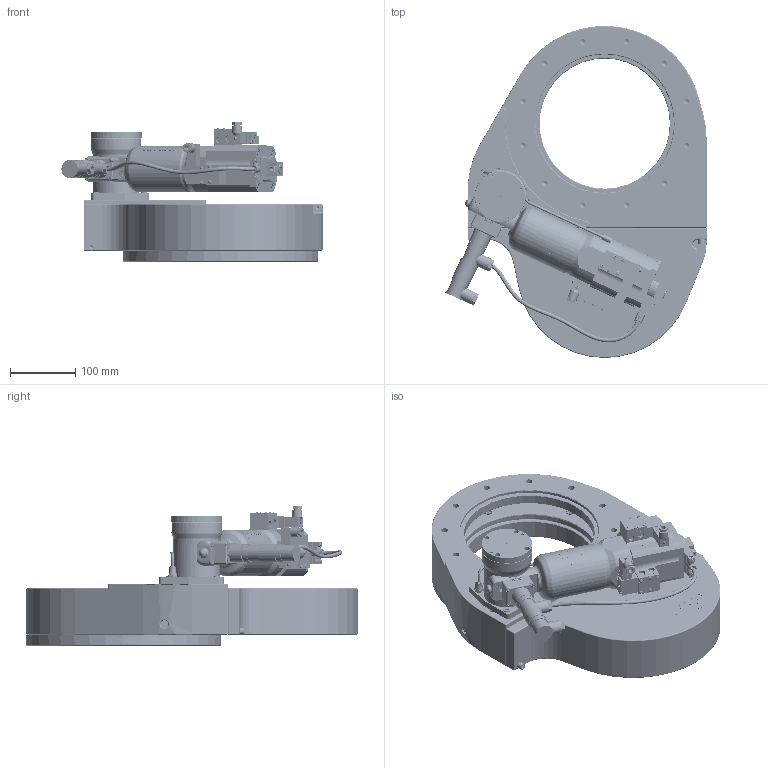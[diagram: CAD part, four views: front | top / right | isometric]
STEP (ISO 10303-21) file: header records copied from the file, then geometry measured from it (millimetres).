
FILE_DESCRIPTION(/* description */ (''),/* implementation_level */ '2;1');
FILE_NAME(/* name */ '1088095690_203',/* time_stamp */ '2009-03-30T12:59:30+02:00',/* author */ (''),/* organization */ (''),/* preprocessor_version */ 'ST-DEVELOPER v11',/* originating_system */ 'UGS - NX 5.0',/* authorisation */ '');
FILE_SCHEMA (('CONFIG_CONTROL_DESIGN'));
Length unit declared in the file: millimetre
Products named in the file (78): N-8406-013_3.2; N-8406-013_2.1; 73662-01.1; 202839_1.2; N-6121-039.1; N-6099-417.1; 82555-01; N-8210-239; 82610-01; N-8406-007; N-8406-551; N-6030-011; 69672-01; N-8406-006_1; 75429-01; 69252-01; 77379-01.1; T-9001-055.1; N-6016-478.2; n-6024-531; 69846-01; N-8504-005.2; N-7557-016_1.1; N-7557-018.1; N-7557-016_2.1; N-7557-016_3.1; N-6024-524.1; N-5018-005.1; 385780; 250743; N-6072-439.1; N-7607-350.2; N-5002-497.1; N-6091-462.1; N-7607-023.1; 245276.2; N-6121-017.2; N-6071-446.1; N-6005-439_1.1; 232959.1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
Assembly tree (129 placements, depth 6):
  400426
    247528.5
      N-6091-494.1  x2
      N-7636-200.2
      247529.4
    248240.11
    237443.8
      387207
    310758.3
      222717.1  x2
      244112.1  x2
      265356.2
      245282.6
      218188.1  x3
      242111.11
      242118.14
      247374.3
      244067.5
      265557.2
      245471.2
      244151.3
      245266.7
      310619.1
      310276.1
      242117.8
      232959.1  x4
      N-6005-439_1.1  x8
      N-6071-446.1
      N-6121-017.2  x4
      245276.2
      N-7607-023.1
      N-6091-462.1
      N-5002-497.1
      N-7607-350.2
      N-6072-439.1
      250743
      385780
    94800-r1.7  x2
      N-5018-005.1
      N-6024-524.1
      N-7557-016_3.1
      N-7557-016_2.1
      N-7557-018.1
      N-7557-016_1.1
    228776.1  x2
    n-6134-408  x2
    228777  x11
    310931.1
    248044.2
    400460
      310926.1
        N-8504-005.2
        69428-r1
          69252-01  x2
          75429-01
        71852-r1
          N-8406-006_1
          69672-01
          N-6030-011  x4
          N-8406-551  x2
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Bounding box: 401.19 x 510 x 214.1 mm (x, y, z)
Volume: 5773086.3 mm3; surface area: 1247187.3 mm2
Topology: 197 solids, 197 shells, 5059 faces, 12127 edges, 7818 vertices
Faces by surface type: plane 2735, cylinder 1282, bspline 379, cone 344, extrusion 139, torus 120, sphere 57, revolution 3
Full cylindrical faces by diameter (mm): 1 x9, 1.2 x10, 1.4 x2, 1.5 x13, 1.6 x6, 1.95 x4, 2 x5, 2.115 x4, 2.2 x4, 2.25 x4, 2.3 x5, 2.5 x31, 2.7 x4, 2.8 x5, 2.856 x4, 3 x37, 3.2 x10, 3.26 x9, 3.3 x17, 3.4 x12, 3.5 x17, 3.8 x1, 3.9 x4, 4 x42, 4.025 x1, 4.054 x1, 4.16 x7, 4.2 x16, 4.5 x9, 4.96 x5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
Entity records: 141073 total; most frequent: CARTESIAN_POINT 43714, DIRECTION 17355, ORIENTED_EDGE 16870, EDGE_CURVE 8435, AXIS2_PLACEMENT_3D 6596, VERTEX_POINT 6104, EDGE_LOOP 5707, VECTOR 4160
